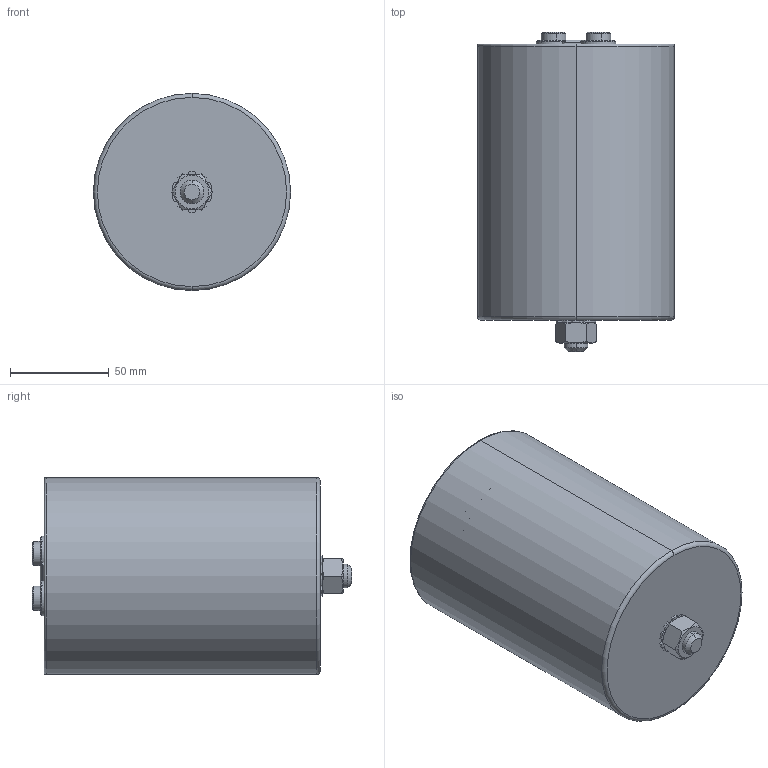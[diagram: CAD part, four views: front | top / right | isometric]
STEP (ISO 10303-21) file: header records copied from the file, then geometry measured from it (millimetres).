
FILE_DESCRIPTION (( 'STEP AP203' ), '1' );
FILE_NAME ('B25690Ax_100x140_146.STEP', '2021-09-07T02:13:31', ( '' ), ( '' ), 'SwSTEP 2.0', 'SolidWorks 2017', '' );
FILE_SCHEMA (( 'CONFIG_CONTROL_DESIGN' ));
Length unit declared in the file: millimetre
Products named in the file (1): B25690Ax_100x140_146
Bounding box: 100 x 162 x 100 mm (x, y, z)
Volume: 135898.3 mm3; surface area: 134053.7 mm2
Topology: 1 solids, 3 shells, 256 faces, 655 edges, 415 vertices
Faces by surface type: plane 133, cylinder 73, cone 40, torus 10
Entity records: 8057 total; most frequent: CARTESIAN_POINT 1865, DIRECTION 1310, ORIENTED_EDGE 1310, EDGE_CURVE 655, AXIS2_PLACEMENT_3D 516, VERTEX_POINT 415, LINE 278, VECTOR 278
